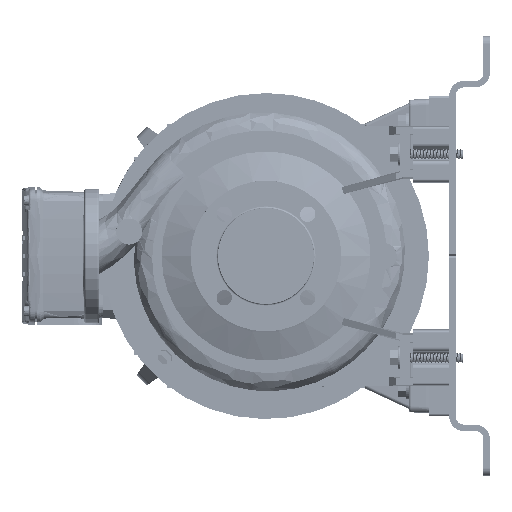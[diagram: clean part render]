
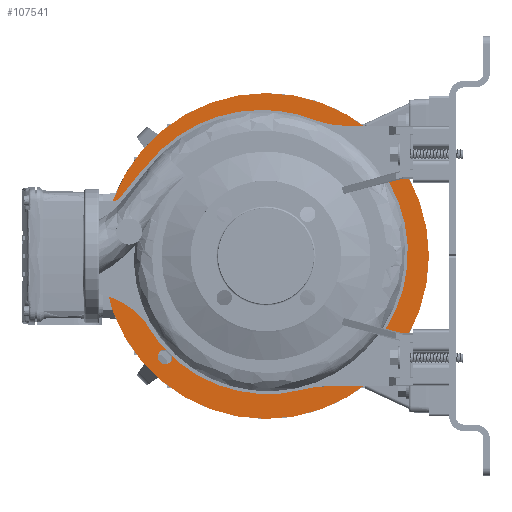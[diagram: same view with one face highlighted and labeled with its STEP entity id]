
A CAD part, left-side view. The second image highlights one B-rep face of the part: STEP entity #107541.
In plain terms, the highlighted planar face has unit normal (-1, 0, 0).
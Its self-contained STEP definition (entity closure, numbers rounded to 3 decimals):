
#585 = DIRECTION ( 'NONE',  ( 0., 0., -1. ) ) ;
#1456 = DIRECTION ( 'NONE',  ( 0., 0., 1. ) ) ;
#3323 = AXIS2_PLACEMENT_3D ( 'NONE', #223176, #60033, #100995 ) ;
#3605 = CARTESIAN_POINT ( 'NONE',  ( 222.127, 154.329, 255.038 ) ) ;
#6433 = ORIENTED_EDGE ( 'NONE', *, *, #267591, .T. ) ;
#10521 = EDGE_CURVE ( 'NONE', #217973, #158666, #202288, .T. ) ;
#11507 = DIRECTION ( 'NONE',  ( 0., 0., 1. ) ) ;
#13026 = CARTESIAN_POINT ( 'NONE',  ( 222.127, 401.816, 493.525 ) ) ;
#16195 = CIRCLE ( 'NONE', #196489, 9. ) ;
#21956 = CIRCLE ( 'NONE', #32001, 9. ) ;
#23392 = ORIENTED_EDGE ( 'NONE', *, *, #153290, .T. ) ;
#27951 = CARTESIAN_POINT ( 'NONE',  ( 222.127, 126.281, 353.343 ) ) ;
#32001 = AXIS2_PLACEMENT_3D ( 'NONE', #201914, #129846, #59241 ) ;
#32828 = AXIS2_PLACEMENT_3D ( 'NONE', #93991, #239678, #1456 ) ;
#33702 = CARTESIAN_POINT ( 'NONE',  ( 222.127, 278.073, 369.781 ) ) ;
#43484 = ORIENTED_EDGE ( 'NONE', *, *, #47481, .T. ) ;
#44092 = CARTESIAN_POINT ( 'NONE',  ( 222.127, 278.073, 169.781 ) ) ;
#47481 = EDGE_CURVE ( 'NONE', #253474, #226372, #250405, .T. ) ;
#49104 = CARTESIAN_POINT ( 'NONE',  ( 222.127, 278.073, 369.781 ) ) ;
#52092 = EDGE_CURVE ( 'NONE', #119391, #290767, #203527, .T. ) ;
#55271 = AXIS2_PLACEMENT_3D ( 'NONE', #180706, #276326, #230770 ) ;
#56848 = CIRCLE ( 'NONE', #187097, 152.679 ) ;
#57034 = CIRCLE ( 'NONE', #222213, 9. ) ;
#59241 = DIRECTION ( 'NONE',  ( 0., 0., 1. ) ) ;
#60033 = DIRECTION ( 'NONE',  ( 1., 0., 0. ) ) ;
#67337 = EDGE_LOOP ( 'NONE', ( #243062, #278421 ) ) ;
#68773 = EDGE_CURVE ( 'NONE', #205322, #302890, #210593, .T. ) ;
#74605 = ORIENTED_EDGE ( 'NONE', *, *, #254388, .T. ) ;
#76147 = CIRCLE ( 'NONE', #121055, 9. ) ;
#77820 = DIRECTION ( 'NONE',  ( 0., 0., -1. ) ) ;
#79240 = DIRECTION ( 'NONE',  ( 0., 0., -1. ) ) ;
#79588 = CARTESIAN_POINT ( 'NONE',  ( 222.127, 401.816, 255.038 ) ) ;
#85644 = EDGE_CURVE ( 'NONE', #130895, #232029, #57034, .T. ) ;
#87402 = FACE_BOUND ( 'NONE', #139873, .T. ) ;
#89034 = ORIENTED_EDGE ( 'NONE', *, *, #116295, .T. ) ;
#89773 = DIRECTION ( 'NONE',  ( 1., 0., 0. ) ) ;
#89846 = CARTESIAN_POINT ( 'NONE',  ( 222.127, 154.329, 493.525 ) ) ;
#92029 = FACE_BOUND ( 'NONE', #253226, .T. ) ;
#93991 = CARTESIAN_POINT ( 'NONE',  ( 222.127, 401.816, 493.525 ) ) ;
#95568 = VERTEX_POINT ( 'NONE', #103315 ) ;
#100995 = DIRECTION ( 'NONE',  ( 0., 0., 1. ) ) ;
#103315 = CARTESIAN_POINT ( 'NONE',  ( 222.127, 154.329, 484.525 ) ) ;
#107541 = ADVANCED_FACE ( 'NONE', ( #231514, #92029, #137449, #87402, #233067, #187579 ), #182988, .T. ) ;
#107592 = EDGE_LOOP ( 'NONE', ( #267915, #23392 ) ) ;
#108656 = DIRECTION ( 'NONE',  ( 0., 0., 1. ) ) ;
#111489 = ORIENTED_EDGE ( 'NONE', *, *, #140305, .T. ) ;
#111933 = EDGE_CURVE ( 'NONE', #136569, #95568, #286253, .T. ) ;
#116295 = EDGE_CURVE ( 'NONE', #232029, #130895, #21956, .T. ) ;
#119391 = VERTEX_POINT ( 'NONE', #197865 ) ;
#120076 = DIRECTION ( 'NONE',  ( -1., 0., 0. ) ) ;
#121055 = AXIS2_PLACEMENT_3D ( 'NONE', #89846, #205781, #108656 ) ;
#121860 = DIRECTION ( 'NONE',  ( 0., 0., 1. ) ) ;
#124166 = DIRECTION ( 'NONE',  ( 1., 0., 0. ) ) ;
#127661 = ORIENTED_EDGE ( 'NONE', *, *, #85644, .T. ) ;
#129846 = DIRECTION ( 'NONE',  ( 1., 0., 0. ) ) ;
#130895 = VERTEX_POINT ( 'NONE', #79588 ) ;
#134840 = AXIS2_PLACEMENT_3D ( 'NONE', #244102, #269189, #121860 ) ;
#136569 = VERTEX_POINT ( 'NONE', #303614 ) ;
#137449 = FACE_BOUND ( 'NONE', #148628, .T. ) ;
#139873 = EDGE_LOOP ( 'NONE', ( #111489, #205709 ) ) ;
#140305 = EDGE_CURVE ( 'NONE', #95568, #136569, #76147, .T. ) ;
#145864 = AXIS2_PLACEMENT_3D ( 'NONE', #197072, #272310, #153086 ) ;
#146851 = DIRECTION ( 'NONE',  ( 1., 0., 0. ) ) ;
#148628 = EDGE_LOOP ( 'NONE', ( #209503, #209951 ) ) ;
#153086 = DIRECTION ( 'NONE',  ( 0., 0., 1. ) ) ;
#153290 = EDGE_CURVE ( 'NONE', #290767, #119391, #259936, .T. ) ;
#155970 = CARTESIAN_POINT ( 'NONE',  ( 222.127, 126.281, 386.22 ) ) ;
#157579 = CIRCLE ( 'NONE', #272902, 23.5 ) ;
#158666 = VERTEX_POINT ( 'NONE', #212682 ) ;
#163322 = CARTESIAN_POINT ( 'NONE',  ( 222.127, 278.073, 369.781 ) ) ;
#164797 = EDGE_CURVE ( 'NONE', #305350, #228400, #16195, .T. ) ;
#177309 = AXIS2_PLACEMENT_3D ( 'NONE', #33702, #223400, #79240 ) ;
#177522 = ORIENTED_EDGE ( 'NONE', *, *, #68773, .T. ) ;
#180706 = CARTESIAN_POINT ( 'NONE',  ( 222.127, 278.073, 369.781 ) ) ;
#180986 = EDGE_CURVE ( 'NONE', #228400, #305350, #263068, .T. ) ;
#182042 = AXIS2_PLACEMENT_3D ( 'NONE', #189124, #120076, #289441 ) ;
#182278 = DIRECTION ( 'NONE',  ( 1., 0., 0. ) ) ;
#182988 = PLANE ( 'NONE',  #182042 ) ;
#187097 = AXIS2_PLACEMENT_3D ( 'NONE', #49104, #265443, #585 ) ;
#187579 = FACE_BOUND ( 'NONE', #206384, .T. ) ;
#189124 = CARTESIAN_POINT ( 'NONE',  ( 222.127, 478.073, 369.781 ) ) ;
#193906 = CARTESIAN_POINT ( 'NONE',  ( 222.127, 401.816, 246.038 ) ) ;
#194713 = CARTESIAN_POINT ( 'NONE',  ( 222.127, 143.074, 369.781 ) ) ;
#196489 = AXIS2_PLACEMENT_3D ( 'NONE', #13026, #182278, #11507 ) ;
#196942 = AXIS2_PLACEMENT_3D ( 'NONE', #163322, #89773, #304475 ) ;
#197072 = CARTESIAN_POINT ( 'NONE',  ( 222.127, 154.329, 493.525 ) ) ;
#197865 = CARTESIAN_POINT ( 'NONE',  ( 222.127, 154.329, 237.038 ) ) ;
#201914 = CARTESIAN_POINT ( 'NONE',  ( 222.127, 401.816, 246.038 ) ) ;
#202288 = CIRCLE ( 'NONE', #177309, 200. ) ;
#203527 = CIRCLE ( 'NONE', #3323, 9. ) ;
#205322 = VERTEX_POINT ( 'NONE', #236171 ) ;
#205709 = ORIENTED_EDGE ( 'NONE', *, *, #111933, .T. ) ;
#205781 = DIRECTION ( 'NONE',  ( 1., 0., 0. ) ) ;
#206384 = EDGE_LOOP ( 'NONE', ( #43484, #74605, #177522, #6433 ) ) ;
#209503 = ORIENTED_EDGE ( 'NONE', *, *, #180986, .T. ) ;
#209951 = ORIENTED_EDGE ( 'NONE', *, *, #164797, .T. ) ;
#210593 = CIRCLE ( 'NONE', #280722, 152.679 ) ;
#212682 = CARTESIAN_POINT ( 'NONE',  ( 222.127, 278.073, 569.781 ) ) ;
#217973 = VERTEX_POINT ( 'NONE', #44092 ) ;
#218875 = CARTESIAN_POINT ( 'NONE',  ( 222.127, 278.073, 369.781 ) ) ;
#222213 = AXIS2_PLACEMENT_3D ( 'NONE', #193906, #146851, #242504 ) ;
#223176 = CARTESIAN_POINT ( 'NONE',  ( 222.127, 154.329, 246.038 ) ) ;
#223400 = DIRECTION ( 'NONE',  ( 1., 0., 0. ) ) ;
#226372 = VERTEX_POINT ( 'NONE', #259717 ) ;
#228400 = VERTEX_POINT ( 'NONE', #231535 ) ;
#230770 = DIRECTION ( 'NONE',  ( 0., 0., -1. ) ) ;
#231118 = CARTESIAN_POINT ( 'NONE',  ( 222.127, 401.816, 237.038 ) ) ;
#231514 = FACE_OUTER_BOUND ( 'NONE', #67337, .T. ) ;
#231535 = CARTESIAN_POINT ( 'NONE',  ( 222.127, 401.816, 484.525 ) ) ;
#232029 = VERTEX_POINT ( 'NONE', #231118 ) ;
#233067 = FACE_BOUND ( 'NONE', #107592, .T. ) ;
#233977 = EDGE_CURVE ( 'NONE', #158666, #217973, #302138, .T. ) ;
#236171 = CARTESIAN_POINT ( 'NONE',  ( 222.127, 278.073, 522.461 ) ) ;
#239678 = DIRECTION ( 'NONE',  ( 1., 0., 0. ) ) ;
#242427 = DIRECTION ( 'NONE',  ( 1., 0., 0. ) ) ;
#242504 = DIRECTION ( 'NONE',  ( 0., 0., 1. ) ) ;
#243062 = ORIENTED_EDGE ( 'NONE', *, *, #10521, .F. ) ;
#244102 = CARTESIAN_POINT ( 'NONE',  ( 222.127, 154.329, 246.038 ) ) ;
#250405 = CIRCLE ( 'NONE', #55271, 152.679 ) ;
#253226 = EDGE_LOOP ( 'NONE', ( #89034, #127661 ) ) ;
#253474 = VERTEX_POINT ( 'NONE', #27951 ) ;
#254388 = EDGE_CURVE ( 'NONE', #226372, #205322, #56848, .T. ) ;
#259717 = CARTESIAN_POINT ( 'NONE',  ( 222.127, 278.073, 217.102 ) ) ;
#259936 = CIRCLE ( 'NONE', #134840, 9. ) ;
#263068 = CIRCLE ( 'NONE', #32828, 9. ) ;
#265443 = DIRECTION ( 'NONE',  ( 1., 0., 0. ) ) ;
#267591 = EDGE_CURVE ( 'NONE', #302890, #253474, #157579, .T. ) ;
#267915 = ORIENTED_EDGE ( 'NONE', *, *, #52092, .T. ) ;
#269189 = DIRECTION ( 'NONE',  ( 1., 0., 0. ) ) ;
#270250 = CARTESIAN_POINT ( 'NONE',  ( 222.127, 401.816, 502.525 ) ) ;
#272310 = DIRECTION ( 'NONE',  ( 1., 0., 0. ) ) ;
#272902 = AXIS2_PLACEMENT_3D ( 'NONE', #194713, #124166, #288832 ) ;
#276326 = DIRECTION ( 'NONE',  ( 1., 0., 0. ) ) ;
#278421 = ORIENTED_EDGE ( 'NONE', *, *, #233977, .F. ) ;
#280722 = AXIS2_PLACEMENT_3D ( 'NONE', #218875, #242427, #77820 ) ;
#286253 = CIRCLE ( 'NONE', #145864, 9. ) ;
#288832 = DIRECTION ( 'NONE',  ( 0., 0., 1. ) ) ;
#289441 = DIRECTION ( 'NONE',  ( 0., 0., 1. ) ) ;
#290767 = VERTEX_POINT ( 'NONE', #3605 ) ;
#302138 = CIRCLE ( 'NONE', #196942, 200. ) ;
#302890 = VERTEX_POINT ( 'NONE', #155970 ) ;
#303614 = CARTESIAN_POINT ( 'NONE',  ( 222.127, 154.329, 502.525 ) ) ;
#304475 = DIRECTION ( 'NONE',  ( 0., 0., -1. ) ) ;
#305350 = VERTEX_POINT ( 'NONE', #270250 ) ;
